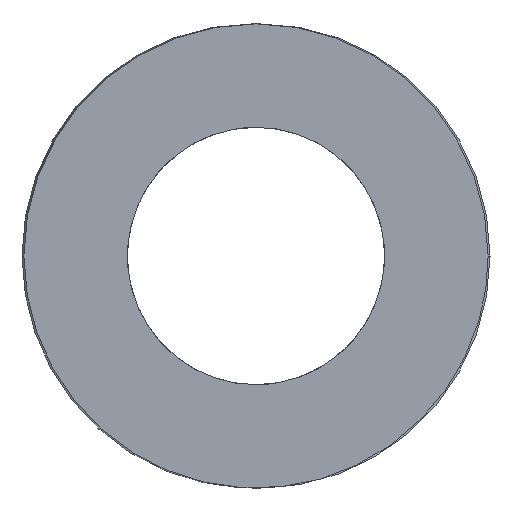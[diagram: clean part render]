
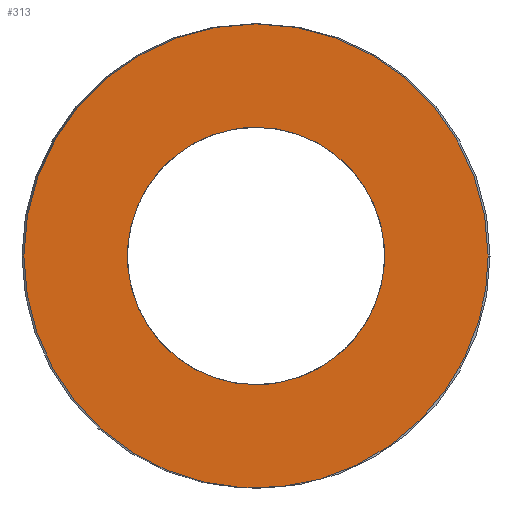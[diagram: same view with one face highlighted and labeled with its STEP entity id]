
A CAD part, left-side view. The second image highlights one B-rep face of the part: STEP entity #313.
In plain terms, the highlighted planar face has unit normal (-1, 0, 0).
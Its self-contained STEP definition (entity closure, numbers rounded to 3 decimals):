
#63=CARTESIAN_POINT('Vertex',(0.,9.2,0.)) ;
#89=CARTESIAN_POINT('Vertex',(0.,-9.2,0.)) ;
#93=CARTESIAN_POINT('Control Point',(0.,9.2,0.)) ;
#94=CARTESIAN_POINT('Control Point',(0.,9.2,-1.445)) ;
#95=CARTESIAN_POINT('Control Point',(0.,8.916,-2.89)) ;
#96=CARTESIAN_POINT('Control Point',(0.,8.348,-4.261)) ;
#97=CARTESIAN_POINT('Control Point',(0.,6.706,-6.706)) ;
#98=CARTESIAN_POINT('Control Point',(0.,4.261,-8.348)) ;
#99=CARTESIAN_POINT('Control Point',(0.,2.89,-8.916)) ;
#100=CARTESIAN_POINT('Control Point',(0.,0.,-9.484)) ;
#101=CARTESIAN_POINT('Control Point',(0.,-2.89,-8.916)) ;
#102=CARTESIAN_POINT('Control Point',(0.,-4.261,-8.348)) ;
#103=CARTESIAN_POINT('Control Point',(0.,-6.706,-6.706)) ;
#104=CARTESIAN_POINT('Control Point',(0.,-8.348,-4.261)) ;
#105=CARTESIAN_POINT('Control Point',(0.,-8.916,-2.89)) ;
#106=CARTESIAN_POINT('Control Point',(0.,-9.2,-1.445)) ;
#107=CARTESIAN_POINT('Control Point',(0.,-9.2,0.)) ;
#121=CARTESIAN_POINT('Axis2P3D Location',(0.,0.,0.)) ;
#250=CARTESIAN_POINT('Axis2P3D Location',(0.,4.6,0.)) ;
#260=CARTESIAN_POINT('Control Point',(0.,0.,-5.1)) ;
#261=CARTESIAN_POINT('Control Point',(0.,0.553,-5.1)) ;
#262=CARTESIAN_POINT('Control Point',(0.,1.106,-5.025)) ;
#263=CARTESIAN_POINT('Control Point',(0.,1.646,-4.875)) ;
#264=CARTESIAN_POINT('Control Point',(0.,2.671,-4.432)) ;
#265=CARTESIAN_POINT('Control Point',(0.,3.541,-3.733)) ;
#266=CARTESIAN_POINT('Control Point',(0.,3.926,-3.326)) ;
#267=CARTESIAN_POINT('Control Point',(0.,4.575,-2.418)) ;
#268=CARTESIAN_POINT('Control Point',(0.,4.96,-1.37)) ;
#269=CARTESIAN_POINT('Control Point',(0.,5.079,-0.822)) ;
#270=CARTESIAN_POINT('Control Point',(0.,5.167,0.291)) ;
#271=CARTESIAN_POINT('Control Point',(0.,4.955,1.387)) ;
#272=CARTESIAN_POINT('Control Point',(0.,4.775,1.917)) ;
#273=CARTESIAN_POINT('Control Point',(0.,4.275,2.916)) ;
#274=CARTESIAN_POINT('Control Point',(0.,3.528,3.745)) ;
#275=CARTESIAN_POINT('Control Point',(0.,3.1,4.106)) ;
#276=CARTESIAN_POINT('Control Point',(0.,2.255,4.642)) ;
#277=CARTESIAN_POINT('Control Point',(0.,1.309,4.959)) ;
#278=CARTESIAN_POINT('Control Point',(0.,0.877,5.053)) ;
#279=CARTESIAN_POINT('Control Point',(0.,0.439,5.1)) ;
#280=CARTESIAN_POINT('Control Point',(0.,0.,5.1)) ;
#281=CARTESIAN_POINT('Vertex',(0.,0.,-5.1)) ;
#283=CARTESIAN_POINT('Vertex',(0.,0.,5.1)) ;
#287=CARTESIAN_POINT('Control Point',(0.,0.,5.1)) ;
#288=CARTESIAN_POINT('Control Point',(0.,-0.553,5.1)) ;
#289=CARTESIAN_POINT('Control Point',(0.,-1.106,5.025)) ;
#290=CARTESIAN_POINT('Control Point',(0.,-1.646,4.875)) ;
#291=CARTESIAN_POINT('Control Point',(0.,-2.671,4.432)) ;
#292=CARTESIAN_POINT('Control Point',(0.,-3.541,3.733)) ;
#293=CARTESIAN_POINT('Control Point',(0.,-3.926,3.326)) ;
#294=CARTESIAN_POINT('Control Point',(0.,-4.575,2.418)) ;
#295=CARTESIAN_POINT('Control Point',(0.,-4.96,1.37)) ;
#296=CARTESIAN_POINT('Control Point',(0.,-5.079,0.822)) ;
#297=CARTESIAN_POINT('Control Point',(0.,-5.167,-0.291)) ;
#298=CARTESIAN_POINT('Control Point',(0.,-4.955,-1.387)) ;
#299=CARTESIAN_POINT('Control Point',(0.,-4.775,-1.917)) ;
#300=CARTESIAN_POINT('Control Point',(0.,-4.275,-2.916)) ;
#301=CARTESIAN_POINT('Control Point',(0.,-3.528,-3.745)) ;
#302=CARTESIAN_POINT('Control Point',(0.,-3.1,-4.106)) ;
#303=CARTESIAN_POINT('Control Point',(0.,-2.255,-4.642)) ;
#304=CARTESIAN_POINT('Control Point',(0.,-1.309,-4.959)) ;
#305=CARTESIAN_POINT('Control Point',(0.,-0.877,-5.053)) ;
#306=CARTESIAN_POINT('Control Point',(0.,-0.439,-5.1)) ;
#307=CARTESIAN_POINT('Control Point',(0.,0.,-5.1)) ;
#122=DIRECTION('Axis2P3D Direction',(1.,-0.,0.)) ;
#251=DIRECTION('Axis2P3D Direction',(-1.,0.,0.)) ;
#252=DIRECTION('Axis2P3D XDirection',(0.,1.,0.)) ;
#123=AXIS2_PLACEMENT_3D('Circle Axis2P3D',#121,#122,$) ;
#253=AXIS2_PLACEMENT_3D('Plane Axis2P3D',#250,#251,#252) ;
#256=ORIENTED_EDGE('',*,*,#108,.T.) ;
#257=ORIENTED_EDGE('',*,*,#125,.T.) ;
#310=ORIENTED_EDGE('',*,*,#285,.T.) ;
#311=ORIENTED_EDGE('',*,*,#308,.T.) ;
#312=FACE_BOUND('',#309,.T.) ;
#313=ADVANCED_FACE('392-B20-076',(#258,#312),#254,.T.) ;
#92=B_SPLINE_CURVE_WITH_KNOTS('',5,(#93,#94,#95,#96,#97,#98,#99,#100,#101,#102,#103,#104,#105,#106,#107),.UNSPECIFIED.,.F.,.U.,(6,3,3,3,6),(-14.451,-7.226,0.,7.226,14.451),.UNSPECIFIED.) ;
#259=B_SPLINE_CURVE_WITH_KNOTS('',5,(#260,#261,#262,#263,#264,#265,#266,#267,#268,#269,#270,#271,#272,#273,#274,#275,#276,#277,#278,#279,#280),.UNSPECIFIED.,.F.,.U.,(6,3,3,3,3,3,6),(0.,3.911,7.823,11.734,15.646,19.557,22.658),.UNSPECIFIED.) ;
#286=B_SPLINE_CURVE_WITH_KNOTS('',5,(#287,#288,#289,#290,#291,#292,#293,#294,#295,#296,#297,#298,#299,#300,#301,#302,#303,#304,#305,#306,#307),.UNSPECIFIED.,.F.,.U.,(6,3,3,3,3,3,6),(0.,3.911,7.823,11.734,15.646,19.557,22.658),.UNSPECIFIED.) ;
#124=CIRCLE('generated circle',#123,9.2) ;
#108=EDGE_CURVE('',#64,#90,#92,.T.) ;
#125=EDGE_CURVE('',#90,#64,#124,.F.) ;
#285=EDGE_CURVE('',#282,#284,#259,.T.) ;
#308=EDGE_CURVE('',#284,#282,#286,.T.) ;
#255=EDGE_LOOP('',(#256,#257)) ;
#309=EDGE_LOOP('',(#310,#311)) ;
#258=FACE_OUTER_BOUND('',#255,.T.) ;
#254=PLANE('Plane',#253) ;
#64=VERTEX_POINT('',#63) ;
#90=VERTEX_POINT('',#89) ;
#282=VERTEX_POINT('',#281) ;
#284=VERTEX_POINT('',#283) ;
